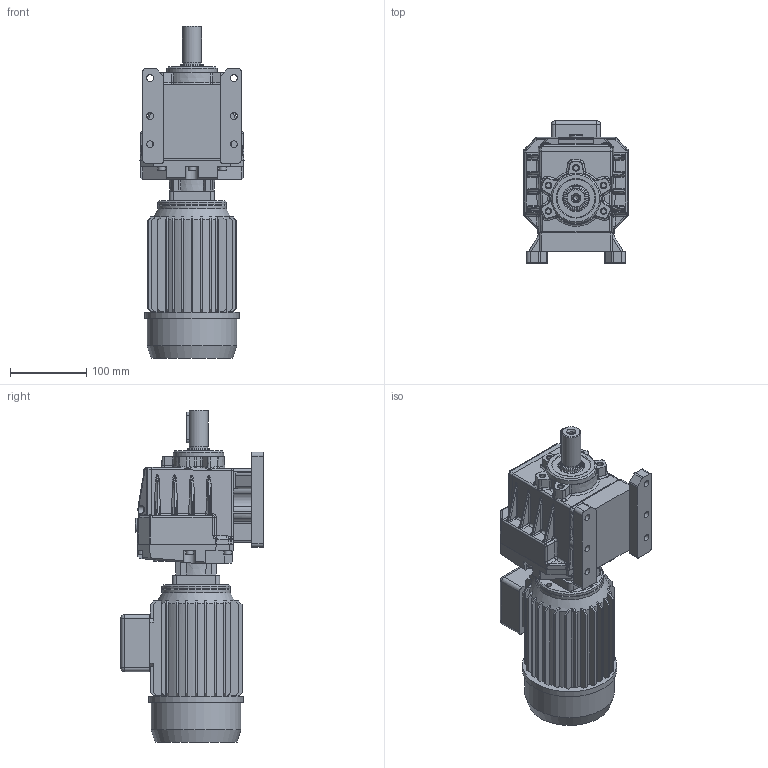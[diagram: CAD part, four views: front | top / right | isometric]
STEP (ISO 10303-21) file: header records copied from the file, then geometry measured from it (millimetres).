
FILE_DESCRIPTION( ( 'Unknown' ), '1' );
FILE_NAME( 'E:/services/configuratordownloads/customers/HYDROMEC/COASSIALI/download/3742AE33B8362C1CCF35612BF9E14C55/STEP/3742AE33B8362C1CCF35612BF9E14C55.3d.stp', 'Unknown', ( 'Unknown' ), ( 'Unknown' ), 'PSStep 10.1', 'Unknown', ' ' );
FILE_SCHEMA( ( 'AUTOMOTIVE_DESIGN { 1 0 10303 214 1 1 1 1 }' ) );
Length unit declared in the file: millimetre
Products named in the file (1): C418800
Bounding box: 136.8 x 187.17 x 436.5 mm (x, y, z)
Volume: 4334733.1 mm3; surface area: 311863.9 mm2
Topology: 1 solids, 23 shells, 1240 faces, 3104 edges, 1962 vertices
Faces by surface type: plane 704, cylinder 285, bspline 164, cone 55, torus 21, sphere 6, extrusion 5
Full cylindrical faces by diameter (mm): 4.2 x4, 4.917 x4, 6.5 x5, 6.647 x6, 7 x8, 8.376 x4, 8.4 x1, 9 x6, 9.9 x8, 10 x4, 11 x6, 13.5 x1, 18 x1, 19 x1, 22 x1, 24.6 x1, 25 x2, 30 x1, 40 x1, 45 x1, 60 x1, 66 x1, 90 x1, 105 x1, 118 x1, 124 x1
Entity records: 55812 total; most frequent: CARTESIAN_POINT 18444, ORIENTED_EDGE 5792, DIRECTION 5154, EDGE_CURVE 2896, VERTEX_POINT 1904, VECTOR 1724, LINE 1719, AXIS2_PLACEMENT_3D 1715
